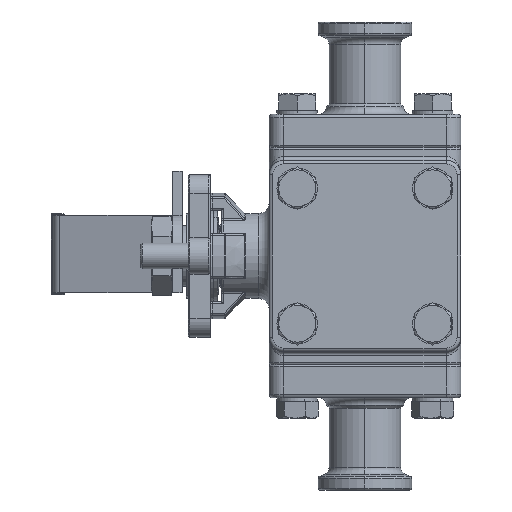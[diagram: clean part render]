
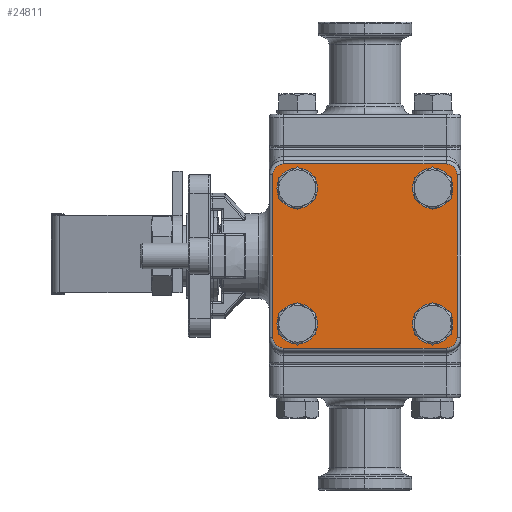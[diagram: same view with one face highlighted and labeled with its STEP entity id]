
A CAD part, left-side view. The second image highlights one B-rep face of the part: STEP entity #24811.
In plain terms, the highlighted planar face has unit normal (-1, 0, 0) as drawn and (0, 0, 1) by its records, which use the part's own axes.
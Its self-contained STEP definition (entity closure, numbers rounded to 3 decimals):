
#8 = ORIENTED_EDGE ( 'NONE', *, *, #20163, .F. ) ;
#16 = EDGE_LOOP ( 'NONE', ( #16970, #27444 ) ) ;
#25 = AXIS2_PLACEMENT_3D ( 'NONE', #9988, #28653, #4741 ) ;
#1166 = VERTEX_POINT ( 'NONE', #5365 ) ;
#1508 = EDGE_LOOP ( 'NONE', ( #33001, #17495 ) ) ;
#2053 = AXIS2_PLACEMENT_3D ( 'NONE', #24851, #23077, #28014 ) ;
#2090 = DIRECTION ( 'NONE',  ( 1., 0., 0. ) ) ;
#2251 = VECTOR ( 'NONE', #22228, 1000. ) ;
#3025 = VECTOR ( 'NONE', #20365, 1000. ) ;
#3277 = CARTESIAN_POINT ( 'NONE',  ( -22., 25., 5. ) ) ;
#3621 = ORIENTED_EDGE ( 'NONE', *, *, #26201, .T. ) ;
#4340 = VERTEX_POINT ( 'NONE', #28441 ) ;
#4474 = CARTESIAN_POINT ( 'NONE',  ( 22., 22., 5. ) ) ;
#4555 = CIRCLE ( 'NONE', #14722, 3. ) ;
#4741 = DIRECTION ( 'NONE',  ( 1., 0., 0. ) ) ;
#4854 = CIRCLE ( 'NONE', #32913, 3. ) ;
#5119 = AXIS2_PLACEMENT_3D ( 'NONE', #11344, #11809, #19701 ) ;
#5124 = EDGE_CURVE ( 'NONE', #27544, #9686, #11333, .T. ) ;
#5365 = CARTESIAN_POINT ( 'NONE',  ( 22.135, -18.385, 5. ) ) ;
#6684 = DIRECTION ( 'NONE',  ( 1., 0., 0. ) ) ;
#6968 = DIRECTION ( 'NONE',  ( 0., 0., 1. ) ) ;
#7200 = DIRECTION ( 'NONE',  ( 0., 0., 1. ) ) ;
#7267 = VERTEX_POINT ( 'NONE', #11453 ) ;
#7416 = EDGE_CURVE ( 'NONE', #25644, #30639, #18485, .T. ) ;
#7850 = CIRCLE ( 'NONE', #26313, 3.75 ) ;
#7878 = CARTESIAN_POINT ( 'NONE',  ( -14.635, -18.385, 5. ) ) ;
#7886 = CIRCLE ( 'NONE', #16956, 3. ) ;
#8584 = ORIENTED_EDGE ( 'NONE', *, *, #7416, .T. ) ;
#8641 = DIRECTION ( 'NONE',  ( 0., 0., 1. ) ) ;
#9367 = CARTESIAN_POINT ( 'NONE',  ( -22., 22., 5. ) ) ;
#9686 = VERTEX_POINT ( 'NONE', #25819 ) ;
#9708 = EDGE_CURVE ( 'NONE', #7267, #1166, #14391, .T. ) ;
#9988 = CARTESIAN_POINT ( 'NONE',  ( 18.385, -18.385, 5. ) ) ;
#10491 = DIRECTION ( 'NONE',  ( 0., 0., 1. ) ) ;
#10892 = CARTESIAN_POINT ( 'NONE',  ( 22., 25., 5. ) ) ;
#11081 = CARTESIAN_POINT ( 'NONE',  ( -22., -22., 5. ) ) ;
#11333 = LINE ( 'NONE', #28210, #3025 ) ;
#11344 = CARTESIAN_POINT ( 'NONE',  ( -18.385, 18.385, 5. ) ) ;
#11351 = CIRCLE ( 'NONE', #2053, 3.75 ) ;
#11368 = VECTOR ( 'NONE', #11790, 1000. ) ;
#11394 = DIRECTION ( 'NONE',  ( 1., 0., 0. ) ) ;
#11453 = CARTESIAN_POINT ( 'NONE',  ( 14.635, -18.385, 5. ) ) ;
#11790 = DIRECTION ( 'NONE',  ( 0., -1., 0. ) ) ;
#11809 = DIRECTION ( 'NONE',  ( 0., 0., 1. ) ) ;
#11994 = VERTEX_POINT ( 'NONE', #34319 ) ;
#12103 = VECTOR ( 'NONE', #32363, 1000. ) ;
#12133 = FACE_BOUND ( 'NONE', #27893, .T. ) ;
#12187 = VERTEX_POINT ( 'NONE', #31961 ) ;
#12326 = CARTESIAN_POINT ( 'NONE',  ( 14.635, 18.385, 5. ) ) ;
#12803 = CARTESIAN_POINT ( 'NONE',  ( -22.135, 18.385, 5. ) ) ;
#12899 = DIRECTION ( 'NONE',  ( 1., 0., 0. ) ) ;
#13457 = AXIS2_PLACEMENT_3D ( 'NONE', #34013, #25900, #17972 ) ;
#14183 = FACE_OUTER_BOUND ( 'NONE', #24432, .T. ) ;
#14388 = CARTESIAN_POINT ( 'NONE',  ( -25., -22., 5. ) ) ;
#14391 = CIRCLE ( 'NONE', #25, 3.75 ) ;
#14722 = AXIS2_PLACEMENT_3D ( 'NONE', #9367, #33088, #6684 ) ;
#14753 = CARTESIAN_POINT ( 'NONE',  ( -22., -25., 5. ) ) ;
#15142 = VERTEX_POINT ( 'NONE', #7878 ) ;
#15292 = ORIENTED_EDGE ( 'NONE', *, *, #15835, .T. ) ;
#15488 = DIRECTION ( 'NONE',  ( 0., 0., 1. ) ) ;
#15835 = EDGE_CURVE ( 'NONE', #4340, #25588, #21349, .T. ) ;
#15861 = FACE_BOUND ( 'NONE', #1508, .T. ) ;
#16525 = VERTEX_POINT ( 'NONE', #12326 ) ;
#16676 = ORIENTED_EDGE ( 'NONE', *, *, #33707, .T. ) ;
#16813 = ORIENTED_EDGE ( 'NONE', *, *, #25289, .F. ) ;
#16956 = AXIS2_PLACEMENT_3D ( 'NONE', #4474, #15488, #2090 ) ;
#16970 = ORIENTED_EDGE ( 'NONE', *, *, #9708, .F. ) ;
#17193 = DIRECTION ( 'NONE',  ( 1., 0., 0. ) ) ;
#17294 = CARTESIAN_POINT ( 'NONE',  ( -18.385, -18.385, 5. ) ) ;
#17374 = CIRCLE ( 'NONE', #5119, 3.75 ) ;
#17495 = ORIENTED_EDGE ( 'NONE', *, *, #20844, .F. ) ;
#17972 = DIRECTION ( 'NONE',  ( 1., 0., 0. ) ) ;
#18485 = LINE ( 'NONE', #3277, #2251 ) ;
#18684 = ORIENTED_EDGE ( 'NONE', *, *, #26506, .F. ) ;
#18866 = CIRCLE ( 'NONE', #23240, 3. ) ;
#19009 = ORIENTED_EDGE ( 'NONE', *, *, #21122, .T. ) ;
#19130 = LINE ( 'NONE', #27081, #12103 ) ;
#19188 = CARTESIAN_POINT ( 'NONE',  ( 22.135, 18.385, 5. ) ) ;
#19282 = CARTESIAN_POINT ( 'NONE',  ( 18.385, 18.385, 5. ) ) ;
#19322 = DIRECTION ( 'NONE',  ( 1., 0., 0. ) ) ;
#19464 = VERTEX_POINT ( 'NONE', #29410 ) ;
#19621 = VERTEX_POINT ( 'NONE', #19188 ) ;
#19701 = DIRECTION ( 'NONE',  ( 1., 0., 0. ) ) ;
#19949 = DIRECTION ( 'NONE',  ( 0., 0., 1. ) ) ;
#20163 = EDGE_CURVE ( 'NONE', #19621, #16525, #21055, .T. ) ;
#20254 = CARTESIAN_POINT ( 'NONE',  ( 22., -22., 5. ) ) ;
#20365 = DIRECTION ( 'NONE',  ( 1., 0., 0. ) ) ;
#20747 = CIRCLE ( 'NONE', #24382, 3.75 ) ;
#20844 = EDGE_CURVE ( 'NONE', #12187, #32965, #17374, .T. ) ;
#21055 = CIRCLE ( 'NONE', #28573, 3.75 ) ;
#21122 = EDGE_CURVE ( 'NONE', #25588, #27544, #4854, .T. ) ;
#21349 = LINE ( 'NONE', #30380, #11368 ) ;
#21370 = CARTESIAN_POINT ( 'NONE',  ( -22., 25., 5. ) ) ;
#21605 = EDGE_CURVE ( 'NONE', #1166, #7267, #24410, .T. ) ;
#21765 = DIRECTION ( 'NONE',  ( 0., 0., 1. ) ) ;
#21915 = CARTESIAN_POINT ( 'NONE',  ( -18.385, -18.385, 5. ) ) ;
#22228 = DIRECTION ( 'NONE',  ( -1., 0., 0. ) ) ;
#22532 = CIRCLE ( 'NONE', #32747, 3.75 ) ;
#22587 = EDGE_CURVE ( 'NONE', #9686, #28610, #18866, .T. ) ;
#23077 = DIRECTION ( 'NONE',  ( 0., 0., 1. ) ) ;
#23240 = AXIS2_PLACEMENT_3D ( 'NONE', #20254, #6968, #28436 ) ;
#23625 = EDGE_CURVE ( 'NONE', #32965, #12187, #11351, .T. ) ;
#24382 = AXIS2_PLACEMENT_3D ( 'NONE', #34336, #10491, #29069 ) ;
#24410 = CIRCLE ( 'NONE', #32437, 3.75 ) ;
#24432 = EDGE_LOOP ( 'NONE', ( #32231, #16676, #8584, #3621, #15292, #19009, #29195, #33256 ) ) ;
#24811 = ADVANCED_FACE ( 'NONE', ( #14183, #34612, #12133, #25462, #15861 ), #34124, .T. ) ;
#24851 = CARTESIAN_POINT ( 'NONE',  ( -18.385, 18.385, 5. ) ) ;
#24963 = DIRECTION ( 'NONE',  ( 0., 0., 1. ) ) ;
#25289 = EDGE_CURVE ( 'NONE', #15142, #11994, #22532, .T. ) ;
#25462 = FACE_BOUND ( 'NONE', #16, .T. ) ;
#25588 = VERTEX_POINT ( 'NONE', #14388 ) ;
#25644 = VERTEX_POINT ( 'NONE', #10892 ) ;
#25819 = CARTESIAN_POINT ( 'NONE',  ( 22., -25., 5. ) ) ;
#25900 = DIRECTION ( 'NONE',  ( 0., 0., 1. ) ) ;
#26192 = ORIENTED_EDGE ( 'NONE', *, *, #34144, .F. ) ;
#26201 = EDGE_CURVE ( 'NONE', #30639, #4340, #4555, .T. ) ;
#26313 = AXIS2_PLACEMENT_3D ( 'NONE', #17294, #19949, #17193 ) ;
#26506 = EDGE_CURVE ( 'NONE', #16525, #19621, #20747, .T. ) ;
#26550 = EDGE_LOOP ( 'NONE', ( #26192, #16813 ) ) ;
#27081 = CARTESIAN_POINT ( 'NONE',  ( 25., 22., 5. ) ) ;
#27285 = DIRECTION ( 'NONE',  ( 1., 0., 0. ) ) ;
#27444 = ORIENTED_EDGE ( 'NONE', *, *, #21605, .F. ) ;
#27544 = VERTEX_POINT ( 'NONE', #14753 ) ;
#27893 = EDGE_LOOP ( 'NONE', ( #18684, #8 ) ) ;
#28014 = DIRECTION ( 'NONE',  ( 1., 0., 0. ) ) ;
#28180 = CARTESIAN_POINT ( 'NONE',  ( 25., -22., 5. ) ) ;
#28210 = CARTESIAN_POINT ( 'NONE',  ( 22., -25., 5. ) ) ;
#28436 = DIRECTION ( 'NONE',  ( 1., 0., 0. ) ) ;
#28441 = CARTESIAN_POINT ( 'NONE',  ( -25., 22., 5. ) ) ;
#28573 = AXIS2_PLACEMENT_3D ( 'NONE', #19282, #21765, #11394 ) ;
#28610 = VERTEX_POINT ( 'NONE', #28180 ) ;
#28653 = DIRECTION ( 'NONE',  ( 0., 0., 1. ) ) ;
#29069 = DIRECTION ( 'NONE',  ( 1., 0., 0. ) ) ;
#29195 = ORIENTED_EDGE ( 'NONE', *, *, #5124, .T. ) ;
#29410 = CARTESIAN_POINT ( 'NONE',  ( 25., 22., 5. ) ) ;
#30380 = CARTESIAN_POINT ( 'NONE',  ( -25., -22., 5. ) ) ;
#30639 = VERTEX_POINT ( 'NONE', #21370 ) ;
#31401 = CARTESIAN_POINT ( 'NONE',  ( 18.385, -18.385, 5. ) ) ;
#31961 = CARTESIAN_POINT ( 'NONE',  ( -14.635, 18.385, 5. ) ) ;
#32231 = ORIENTED_EDGE ( 'NONE', *, *, #33416, .T. ) ;
#32363 = DIRECTION ( 'NONE',  ( 0., 1., 0. ) ) ;
#32437 = AXIS2_PLACEMENT_3D ( 'NONE', #31401, #7200, #12899 ) ;
#32747 = AXIS2_PLACEMENT_3D ( 'NONE', #21915, #24963, #19322 ) ;
#32913 = AXIS2_PLACEMENT_3D ( 'NONE', #11081, #8641, #27285 ) ;
#32965 = VERTEX_POINT ( 'NONE', #12803 ) ;
#33001 = ORIENTED_EDGE ( 'NONE', *, *, #23625, .F. ) ;
#33088 = DIRECTION ( 'NONE',  ( 0., 0., 1. ) ) ;
#33256 = ORIENTED_EDGE ( 'NONE', *, *, #22587, .T. ) ;
#33416 = EDGE_CURVE ( 'NONE', #28610, #19464, #19130, .T. ) ;
#33707 = EDGE_CURVE ( 'NONE', #19464, #25644, #7886, .T. ) ;
#34013 = CARTESIAN_POINT ( 'NONE',  ( 22., -22., 5. ) ) ;
#34124 = PLANE ( 'NONE',  #13457 ) ;
#34144 = EDGE_CURVE ( 'NONE', #11994, #15142, #7850, .T. ) ;
#34319 = CARTESIAN_POINT ( 'NONE',  ( -22.135, -18.385, 5. ) ) ;
#34336 = CARTESIAN_POINT ( 'NONE',  ( 18.385, 18.385, 5. ) ) ;
#34612 = FACE_BOUND ( 'NONE', #26550, .T. ) ;
